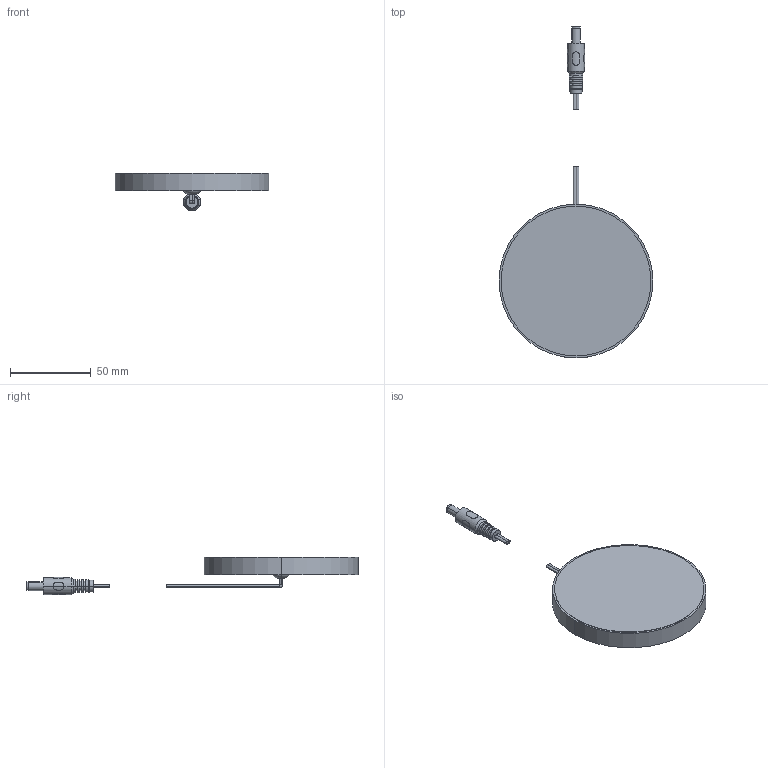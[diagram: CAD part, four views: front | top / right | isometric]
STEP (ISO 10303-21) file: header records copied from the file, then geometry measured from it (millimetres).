
FILE_DESCRIPTION(('STEP AP214'),'1');
FILE_NAME('RD-95T.stp','2022-12-14T03:25:31',(' '),(' '),'Spatial InterOp 3D',' ',' ');
FILE_SCHEMA(('AUTOMOTIVE_DESIGN { 1 0 10303 214 1 1 1 1 }'));
Length unit declared in the file: metre
Products named in the file (3): RD-95T; Component1; Component2
Assembly tree (2 placements, depth 2):
  RD-95T
    Component1
    Component2
Bounding box: 95 x 205 x 23.3 mm (x, y, z)
Volume: 80759.6 mm3; surface area: 19956.3 mm2
Topology: 2 solids, 2 shells, 182 faces, 471 edges, 307 vertices
Faces by surface type: plane 92, cylinder 62, cone 20, torus 8
Entity records: 6829 total; most frequent: CARTESIAN_POINT 2305, ORIENTED_EDGE 934, DIRECTION 924, EDGE_CURVE 467, AXIS2_PLACEMENT_3D 336, VERTEX_POINT 307, LINE 252, VECTOR 252
